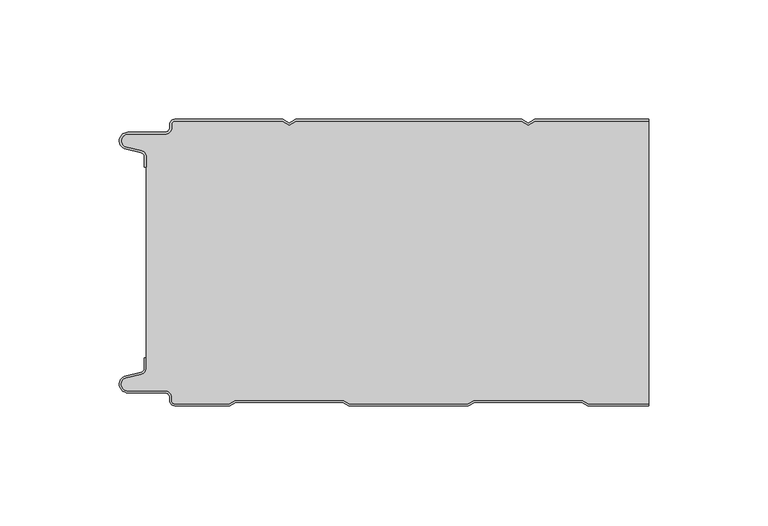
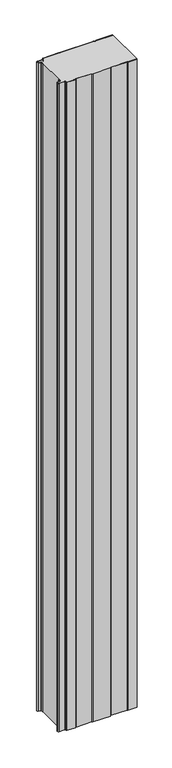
"""IFC4 building model written with IfcOpenShell, lengths in millimetres: plate geometry, PMH_Curtain-Panel_Perfil-Estándar : ACH_PMH_Panel-Acústico-Sectorización_120M."""

import ifcopenshell
import ifcopenshell.guid

model = None  # the IFC model being written
_history = None  # IfcOwnerHistory: only IFC2X3 demands one
_inside = {}  # id of a spatial element -> (the spatial element, [elements in it])
_under = {}  # id of a project, library or spatial element -> (it, [spatial elements below it])
_declared = {}  # id of a project -> (the project, [libraries it declares])
_typed = {}  # id of a type object -> (the type object, [elements of that type])
_made_of = {}  # id of a material, layer set ... -> (it, [elements and type objects made of it])


def new_model(schema):
    """Start an empty IFC model of exactly this schema.

    Asked for "IFC4X3", IfcOpenShell would pick the latest addendum, in which some entities
    have other attributes; the version numbers below select the first issue.
    IFC2X3 requires an IfcOwnerHistory on every rooted entity: one is made here for all.
    """
    global model, _history
    if schema == "IFC4X3":
        model = ifcopenshell.file(schema_version=(4, 3, 0, 0))
    else:
        model = ifcopenshell.file(schema=schema)
    _inside.clear()
    _under.clear()
    _declared.clear()
    _typed.clear()
    _made_of.clear()
    _history = None
    if model.schema == "IFC2X3":
        org = make("IfcOrganization", Name="unknown")
        user = make(
            "IfcPersonAndOrganization",
            ThePerson=make("IfcPerson", FamilyName="unknown"),
            TheOrganization=org,
        )
        app = make(
            "IfcApplication",
            ApplicationDeveloper=org,
            Version="unknown",
            ApplicationFullName="unknown",
            ApplicationIdentifier="unknown",
        )
        _history = make(
            "IfcOwnerHistory",
            OwningUser=user,
            OwningApplication=app,
            ChangeAction="ADDED",
            CreationDate=0,
        )
    return model


def make(cls, **values):
    """One entity of the class cls with the attributes given. An attribute that is None is left unset."""
    return model.create_entity(
        cls, **{name: value for name, value in values.items() if value is not None}
    )


def rooted(cls, **values):
    """An entity with a GlobalId (a new one), such as an element, a storey or a relation."""
    return make(cls, GlobalId=ifcopenshell.guid.new(), OwnerHistory=_history, **values)


def si_unit(unit_type, name, prefix=None):
    """IfcSIUnit, for example si_unit("LENGTHUNIT", "METRE", prefix="MILLI")."""
    return make("IfcSIUnit", UnitType=unit_type, Prefix=prefix, Name=name)


def assignment(units):
    """IfcUnitAssignment: the units of a project."""
    return None if units is None else make("IfcUnitAssignment", Units=units)


def point(xyz):
    """IfcCartesianPoint."""
    return None if xyz is None else make("IfcCartesianPoint", Coordinates=xyz)


def direction(xyz):
    """IfcDirection."""
    return None if xyz is None else make("IfcDirection", DirectionRatios=xyz)


def frame(location, z_axis=None, x_axis=None):
    """IfcAxis2Placement3D, a coordinate frame: its origin and axes. An axis left out is left unset."""
    return make(
        "IfcAxis2Placement3D",
        Location=point(location),
        Axis=direction(z_axis),
        RefDirection=direction(x_axis),
    )


def frame_2d(location, x_axis=None):
    """IfcAxis2Placement2D, a coordinate frame in the plane: its origin and x axis."""
    return make(
        "IfcAxis2Placement2D", Location=point(location), RefDirection=direction(x_axis)
    )


def origin():
    """The frame at (0, 0, 0) with its axes left unset."""
    return frame((0.0, 0.0, 0.0))


def origin_with_axes():
    """The frame at (0, 0, 0) with the z axis (0, 0, 1) and the x axis (1, 0, 0) written out."""
    return frame((0.0, 0.0, 0.0), z_axis=(0.0, 0.0, 1.0), x_axis=(1.0, 0.0, 0.0))


def place(relative_to, where):
    """IfcLocalPlacement: puts the frame where relative to a parent placement (None: the world)."""
    return make(
        "IfcLocalPlacement", PlacementRelTo=relative_to, RelativePlacement=where
    )


def context(
    kind, dimensions, precision=None, world=None, true_north=None, identifier=None
):
    """IfcGeometricRepresentationContext, for example the 3D "Model" context."""
    return make(
        "IfcGeometricRepresentationContext",
        ContextIdentifier=identifier,
        ContextType=kind,
        CoordinateSpaceDimension=dimensions,
        Precision=precision,
        WorldCoordinateSystem=world,
        TrueNorth=true_north,
    )


def project(units=None, contexts=None):
    """IfcProject with its units and contexts."""
    return rooted(
        "IfcProject",
        Name="project",
        RepresentationContexts=contexts,
        UnitsInContext=assignment(units),
    )


def spatial(cls, under=None, at=None, **own):
    """A site, building, storey or space (cls), placed at a placement, below another one or the project."""
    s = rooted(cls, ObjectPlacement=at, **own)
    if under is not None:
        _under.setdefault(under.id(), (under, []))[1].append(s)
    return s


def polyline(points):
    """IfcPolyline through the points."""
    return make("IfcPolyline", Points=[point(p) for p in points])


def circle_curve(where, radius):
    """IfcCircle in the frame where."""
    return make("IfcCircle", Position=where, Radius=radius)


def trimmed(basis, trim1, trim2, sense, master):
    """IfcTrimmedCurve: the piece of a basis curve between two trims."""
    return make(
        "IfcTrimmedCurve",
        BasisCurve=basis,
        Trim1=trim1,
        Trim2=trim2,
        SenseAgreement=sense,
        MasterRepresentation=master,
    )


def segment(curve, same_sense, transition):
    """IfcCompositeCurveSegment."""
    return make(
        "IfcCompositeCurveSegment",
        Transition=transition,
        SameSense=same_sense,
        ParentCurve=curve,
    )


def composite_curve(segments, self_intersect=None):
    """IfcCompositeCurve: segments joined end to end."""
    return make("IfcCompositeCurve", Segments=segments, SelfIntersect=self_intersect)


def outline(outer, holes=None, kind="AREA"):
    """IfcArbitraryClosedProfileDef: a profile drawn as a closed curve; with holes, ...WithVoids."""
    if holes is None:
        return make("IfcArbitraryClosedProfileDef", ProfileType=kind, OuterCurve=outer)
    return make(
        "IfcArbitraryProfileDefWithVoids",
        ProfileType=kind,
        OuterCurve=outer,
        InnerCurves=holes,
    )


def extrude(swept, where, along, depth):
    """IfcExtrudedAreaSolid: the profile swept, set in the frame where, extruded along a direction by depth."""
    return make(
        "IfcExtrudedAreaSolid",
        SweptArea=swept,
        Position=where,
        ExtrudedDirection=direction(along),
        Depth=depth,
    )


def shape(context_of_items, identifier, shape_type, items):
    """IfcShapeRepresentation: the items that make up one representation, for example the "Body"."""
    return make(
        "IfcShapeRepresentation",
        ContextOfItems=context_of_items,
        RepresentationIdentifier=identifier,
        RepresentationType=shape_type,
        Items=items,
    )


def source(mapping_origin, context_of_items, identifier, shape_type, items):
    """IfcRepresentationMap: a shape defined once, which mapped items show again and again."""
    return make(
        "IfcRepresentationMap",
        MappingOrigin=mapping_origin,
        MappedRepresentation=shape(context_of_items, identifier, shape_type, items),
    )


def transform(
    local_origin,
    x_axis=None,
    y_axis=None,
    z_axis=None,
    scale=None,
    scale2=None,
    scale3=None,
    uniform=True,
):
    """IfcCartesianTransformationOperator3D, or its non-uniform kind. x_axis, y_axis, z_axis: its Axis1, 2, 3."""
    if uniform:
        return make(
            "IfcCartesianTransformationOperator3D",
            Axis1=direction(x_axis),
            Axis2=direction(y_axis),
            LocalOrigin=point(local_origin),
            Scale=scale,
            Axis3=direction(z_axis),
        )
    return make(
        "IfcCartesianTransformationOperator3DnonUniform",
        Axis1=direction(x_axis),
        Axis2=direction(y_axis),
        LocalOrigin=point(local_origin),
        Scale=scale,
        Axis3=direction(z_axis),
        Scale2=scale2,
        Scale3=scale3,
    )


def mapped(mapping_source, mapping_target):
    """IfcMappedItem: shows the shape of a source again, moved by a transform."""
    return make(
        "IfcMappedItem", MappingSource=mapping_source, MappingTarget=mapping_target
    )


def made_of(thing, what):
    """Note that an element or type object is made of a material, layer set ...; save() writes the relation."""
    if what is not None:
        _made_of.setdefault(what.id(), (what, []))[1].append(thing)
    return thing


def element(
    cls,
    number,
    at=None,
    inside=None,
    cuts=None,
    type_object=None,
    material=None,
    context=None,
    identifier="Body",
    shape_type=None,
    held_by="IfcProductDefinitionShape",
    body=None,
    shapes=None,
    **own,
):
    """One element of the class cls, such as IfcWall. Its Tag is "e" and its number.

    at: its placement. inside: the storey or other place that contains it. cuts: it is an
    opening in that element (IfcRelVoidsElement). A single representation is given by context,
    identifier, shape_type and body (its items); several are given by shapes. held_by: the class
    of the entity that holds the representations. save() writes the other relations.
    """
    e = rooted(cls, Tag="e%d" % number, ObjectPlacement=at, **own)
    if body is not None:
        shapes = [shape(context, identifier, shape_type, body)]
    if shapes is not None:
        e.Representation = make(held_by, Representations=shapes)
    if inside is not None:
        _inside.setdefault(inside.id(), (inside, []))[1].append(e)
    if cuts is not None:
        rooted(
            "IfcRelVoidsElement", RelatingBuildingElement=cuts, RelatedOpeningElement=e
        )
    if type_object is not None:
        _typed.setdefault(type_object.id(), (type_object, []))[1].append(e)
    return made_of(e, material)


def aggregate(whole, parts):
    """IfcRelAggregates: a whole, such as a stair, and the parts it consists of."""
    return rooted("IfcRelAggregates", RelatingObject=whole, RelatedObjects=parts)


def save(model, path):
    """Write the relations noted so far, then the file.

    IfcRelAggregates (storeys below a building ...), IfcRelContainedInSpatialStructure (elements
    in a storey), IfcRelDefinesByType, IfcRelAssociatesMaterial and IfcRelDeclares: one each for
    every whole, place, type object, material and project.
    """
    for whole, parts in _under.values():
        aggregate(whole, parts)
    for where, things in _inside.values():
        rooted(
            "IfcRelContainedInSpatialStructure",
            RelatedElements=things,
            RelatingStructure=where,
        )
    for kind, things in _typed.values():
        rooted("IfcRelDefinesByType", RelatedObjects=things, RelatingType=kind)
    for what, things in _made_of.values():
        rooted("IfcRelAssociatesMaterial", RelatedObjects=things, RelatingMaterial=what)
    for by, libraries in _declared.values():
        rooted("IfcRelDeclares", RelatingContext=by, RelatedDefinitions=libraries)
    model.write(path)


def plate_1fcd82a8(model_context):
    return source(origin(), model_context, "Body", "SweptSolid", [
        extrude(outline(composite_curve([segment(trimmed(circle_curve(frame_2d((-102.0119739, -15.878557)), 2.0), [point((-100.0119739, -15.878557))], [point((-101.5620718, -13.9298169))], True, "CARTESIAN"), True, "CONTINUOUS"), segment(polyline([(-101.5620718, -13.9298169), (-107.7217978, -12.507732)]), True, "CONTINUOUS"), segment(trimmed(circle_curve(frame_2d((-106.9119739, -9.0)), 3.6), [point((-107.7217978, -12.507732))], [point((-106.9119739, -5.4))], False, "CARTESIAN"), True, "CONTINUOUS"), segment(polyline([(-106.9119739, -5.4), (-91.4119739, -5.4)]), True, "CONTINUOUS"), segment(trimmed(circle_curve(frame_2d((-91.4119739, -3.4)), 2.0), [point((-91.4119739, -5.4))], [point((-89.4119739, -3.4))], True, "CARTESIAN"), True, "CONTINUOUS"), segment(polyline([(-89.4119739, -3.4), (-89.4119739, -2.0)]), True, "CONTINUOUS"), segment(trimmed(circle_curve(frame_2d((-87.4119739, -2.0)), 2.0), [point((-89.4119739, -2.0))], [point((-87.4119739, 0.0))], False, "CARTESIAN"), True, "CONTINUOUS"), segment(polyline([(-87.4119739, 0.0), (-42.1119734, 0.0), (-39.4119739, -1.5588455), (-36.7119745, 0.0), (57.8880266, 0.0), (60.5880261, -1.5588455), (63.2880255, 0.0), (111.0119739, 0.0), (111.0119739, -0.8), (63.5023849, -0.8), (60.5880261, -2.482606), (57.6736672, -0.8), (-36.4976151, -0.8), (-39.4119739, -2.482606), (-42.3263328, -0.8), (-87.4119739, -0.8)]), True, "CONTINUOUS"), segment(trimmed(circle_curve(frame_2d((-87.4119739, -2.0)), 1.2), [point((-87.4119739, -0.8))], [point((-88.6119739, -2.0))], True, "CARTESIAN"), True, "CONTINUOUS"), segment(polyline([(-88.6119739, -2.0), (-88.6119739, -3.4)]), True, "CONTINUOUS"), segment(trimmed(circle_curve(frame_2d((-91.4119739, -3.4)), 2.8), [point((-88.6119739, -3.4))], [point((-91.4119739, -6.2))], False, "CARTESIAN"), True, "CONTINUOUS"), segment(polyline([(-91.4119739, -6.2), (-106.9119739, -6.2)]), True, "CONTINUOUS"), segment(trimmed(circle_curve(frame_2d((-106.9119739, -9.0)), 2.8), [point((-106.9119739, -6.2))], [point((-107.541837, -11.7282362))], True, "CARTESIAN"), True, "CONTINUOUS"), segment(polyline([(-107.541837, -11.7282362), (-101.3821109, -13.150321)]), True, "CONTINUOUS"), segment(trimmed(circle_curve(frame_2d((-102.0119739, -15.878557)), 2.8), [point((-101.3821109, -13.150321))], [point((-99.2119739, -15.878557))], False, "CARTESIAN"), True, "CONTINUOUS"), segment(polyline([(-99.2119739, -15.878557), (-99.2119739, -20.0), (-100.0119739, -20.0), (-100.0119739, -15.878557)]), True, "CONTINUOUS")], self_intersect=False)), origin_with_axes(), (0.0, 0.0, 1.0), 1945.7507136),
        extrude(outline(composite_curve([segment(polyline([(-99.2119739, -104.121443), (-99.2119739, -15.8785573)]), True, "CONTINUOUS"), segment(trimmed(circle_curve(frame_2d((-102.0119739, -15.8785573)), 2.8), [point((-99.2119739, -15.8785573))], [point((-101.3821109, -13.1503212))], True, "CARTESIAN"), True, "CONTINUOUS"), segment(polyline([(-101.3821109, -13.1503212), (-107.541837, -11.7282362)]), True, "CONTINUOUS"), segment(trimmed(circle_curve(frame_2d((-106.911974, -9.0)), 2.8), [point((-107.541837, -11.7282362))], [point((-106.911974, -6.2))], False, "CARTESIAN"), True, "CONTINUOUS"), segment(polyline([(-106.911974, -6.2), (-91.411974, -6.2)]), True, "CONTINUOUS"), segment(trimmed(circle_curve(frame_2d((-91.411974, -3.4)), 2.8), [point((-91.411974, -6.2))], [point((-88.611974, -3.4))], True, "CARTESIAN"), True, "CONTINUOUS"), segment(polyline([(-88.611974, -3.4), (-88.611974, -2.0)]), True, "CONTINUOUS"), segment(trimmed(circle_curve(frame_2d((-87.411974, -2.0)), 1.2), [point((-88.611974, -2.0))], [point((-87.411974, -0.8))], False, "CARTESIAN"), True, "CONTINUOUS"), segment(polyline([(-87.411974, -0.8), (-42.3263329, -0.8), (-39.411974, -2.482606), (-36.4976152, -0.8), (57.6736671, -0.8), (60.588026, -2.482606), (63.5023848, -0.8), (111.0119739, -0.8), (111.0119739, -119.2), (85.7985382, -119.2), (83.2004606, -117.7), (37.9717445, -117.7), (35.3736669, -119.2), (-14.2014618, -119.2), (-16.7995394, -117.7), (-62.0282555, -117.7), (-64.6263331, -119.2), (-87.4119739, -119.2)]), True, "CONTINUOUS"), segment(trimmed(circle_curve(frame_2d((-87.4119739, -118.0)), 1.2), [point((-87.4119739, -119.2))], [point((-88.6119739, -118.0))], False, "CARTESIAN"), True, "CONTINUOUS"), segment(polyline([(-88.6119739, -118.0), (-88.6119739, -116.5999998)]), True, "CONTINUOUS"), segment(trimmed(circle_curve(frame_2d((-91.4119739, -116.5999998)), 2.8), [point((-88.6119739, -116.5999998))], [point((-91.4119739, -113.7999998))], True, "CARTESIAN"), True, "CONTINUOUS"), segment(polyline([(-91.4119739, -113.7999998), (-106.9119739, -113.7999998)]), True, "CONTINUOUS"), segment(trimmed(circle_curve(frame_2d((-106.9119739, -111.0)), 2.7999998), [point((-106.9119739, -113.7999998))], [point((-107.5418369, -108.271764))], False, "CARTESIAN"), True, "CONTINUOUS"), segment(polyline([(-107.5418369, -108.271764), (-101.3821109, -106.8496792)]), True, "CONTINUOUS"), segment(trimmed(circle_curve(frame_2d((-102.0119739, -104.121443)), 2.8), [point((-101.3821109, -106.8496792))], [point((-99.2119739, -104.121443))], True, "CARTESIAN"), True, "CONTINUOUS")], self_intersect=False)), origin_with_axes(), (0.0, 0.0, 1.0), 1945.7507136),
        extrude(outline(composite_curve([segment(trimmed(circle_curve(frame_2d((-87.4119739, -118.0)), 2.0), [point((-87.4119739, -120.0))], [point((-89.4119739, -118.0))], False, "CARTESIAN"), True, "CONTINUOUS"), segment(polyline([(-89.4119739, -118.0), (-89.4119739, -116.6)]), True, "CONTINUOUS"), segment(trimmed(circle_curve(frame_2d((-91.4119739, -116.6)), 2.0), [point((-89.4119739, -116.6))], [point((-91.4119739, -114.6))], True, "CARTESIAN"), True, "CONTINUOUS"), segment(polyline([(-91.4119739, -114.6), (-106.9119739, -114.6)]), True, "CONTINUOUS"), segment(trimmed(circle_curve(frame_2d((-106.9119739, -111.0)), 3.6), [point((-106.9119739, -114.6))], [point((-107.7217979, -107.4922678))], False, "CARTESIAN"), True, "CONTINUOUS"), segment(polyline([(-107.7217979, -107.4922678), (-101.5620718, -106.070183)]), True, "CONTINUOUS"), segment(trimmed(circle_curve(frame_2d((-102.0119739, -104.121443)), 2.0), [point((-101.5620718, -106.070183))], [point((-100.0119739, -104.121443))], True, "CARTESIAN"), True, "CONTINUOUS"), segment(polyline([(-100.0119739, -104.121443), (-100.0119739, -100.0), (-99.2119739, -100.0), (-99.2119739, -104.121443)]), True, "CONTINUOUS"), segment(trimmed(circle_curve(frame_2d((-102.0119739, -104.121443)), 2.8), [point((-99.2119739, -104.121443))], [point((-101.3821109, -106.8496792))], False, "CARTESIAN"), True, "CONTINUOUS"), segment(polyline([(-101.3821109, -106.8496792), (-107.5418369, -108.271764)]), True, "CONTINUOUS"), segment(trimmed(circle_curve(frame_2d((-106.9119739, -111.0)), 2.8), [point((-107.5418369, -108.271764))], [point((-106.9119739, -113.8))], True, "CARTESIAN"), True, "CONTINUOUS"), segment(polyline([(-106.9119739, -113.8), (-91.4119739, -113.8)]), True, "CONTINUOUS"), segment(trimmed(circle_curve(frame_2d((-91.4119739, -116.6)), 2.8), [point((-91.4119739, -113.8))], [point((-88.6119739, -116.6))], False, "CARTESIAN"), True, "CONTINUOUS"), segment(polyline([(-88.6119739, -116.6), (-88.6119739, -118.0)]), True, "CONTINUOUS"), segment(trimmed(circle_curve(frame_2d((-87.4119739, -118.0)), 1.2), [point((-88.6119739, -118.0))], [point((-87.4119739, -119.2))], True, "CARTESIAN"), True, "CONTINUOUS"), segment(polyline([(-87.4119739, -119.2), (-64.6263331, -119.2), (-62.0282555, -117.7), (-16.7995394, -117.7), (-14.2014618, -119.2), (35.3736669, -119.2), (37.9717445, -117.7), (83.2004606, -117.7), (85.7985382, -119.2), (111.0119739, -119.2), (111.0119739, -120.0), (85.584179, -120.0), (82.9861014, -118.5), (38.1861037, -118.5), (35.5880261, -120.0), (-14.415821, -120.0), (-17.0138986, -118.5), (-61.8138963, -118.5), (-64.4119739, -120.0), (-87.4119739, -120.0)]), True, "CONTINUOUS")], self_intersect=False)), origin_with_axes(), (0.0, 0.0, 1.0), 1945.7507136),
    ])


if __name__ == "__main__":
    model = new_model("IFC4")
    model_context = context("Model", 3, world=origin())
    ifc_project = project(units=[si_unit("LENGTHUNIT", "METRE", prefix="MILLI")], contexts=[model_context])
    site = spatial("IfcSite", under=ifc_project)
    building = spatial("IfcBuilding", under=site)
    placement = place(None, origin())
    plate_shape = plate_1fcd82a8(model_context)
    element("IfcPlate", 1, ObjectType="PMH_Curtain-Panel_Perfil-Estándar : ACH_PMH_Panel-Acústico-Sectorización_120M", at=placement, inside=building, context=model_context, shape_type="MappedRepresentation", body=[
        mapped(plate_shape, transform((0.0, 0.0, 0.0), x_axis=(1.0, 0.0, 0.0), y_axis=(0.0, 1.0, 0.0), z_axis=(0.0, 0.0, 1.0))),
    ])
    save(model, "model.ifc")
